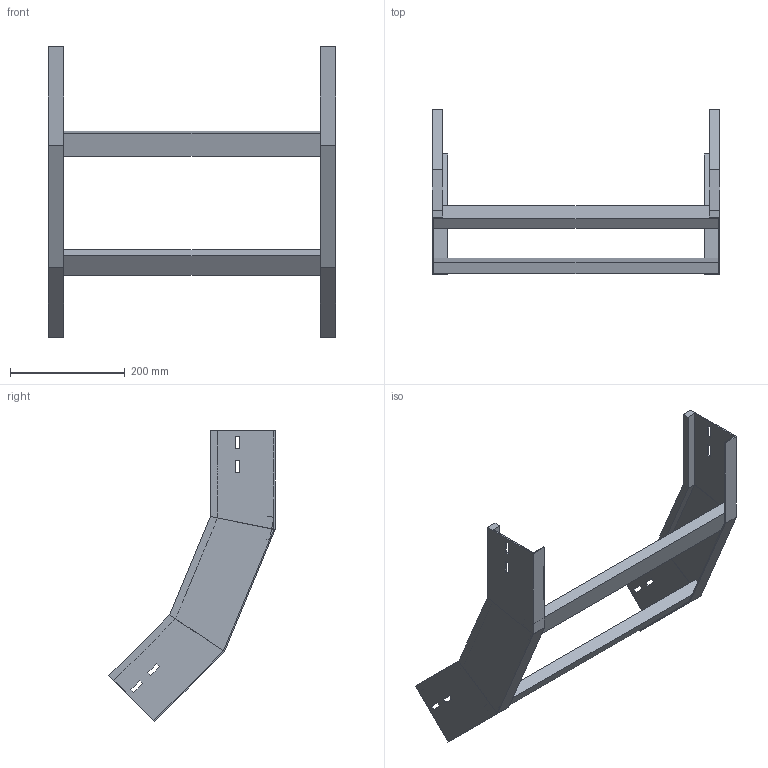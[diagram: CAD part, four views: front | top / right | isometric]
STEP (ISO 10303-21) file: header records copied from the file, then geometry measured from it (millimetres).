
FILE_DESCRIPTION (( 'STEP AP214' ), '1' );
FILE_NAME ('A2X31B3J500XX.step', '2025-03-20T10:06:31', ( '' ), ( '' ), 'SwSTEP 2.0', 'SolidWorks 2023', '' );
FILE_SCHEMA (( 'AUTOMOTIVE_DESIGN' ));
Length unit declared in the file: millimetre
Products named in the file (3): A2X31B3J500XX; TRAVERSINO_500; LONGH.SALITA_45°_H112.5_R300
Assembly tree (4 placements, depth 2):
  A2X31B3J500XX
    LONGH.SALITA_45°_H112.5_R300  x2
    TRAVERSINO_500  x2
Bounding box: 500 x 289.26 x 506.29 mm (x, y, z)
Volume: 1284600.5 mm3; surface area: 454755.8 mm2
Topology: 4 solids, 4 shells, 96 faces, 232 edges, 144 vertices
Faces by surface type: plane 96
Entity records: 1472 total; most frequent: CARTESIAN_POINT 243, ORIENTED_EDGE 232, DIRECTION 226, EDGE_CURVE 116, LINE 116, VECTOR 116, VERTEX_POINT 72, EDGE_LOOP 56
